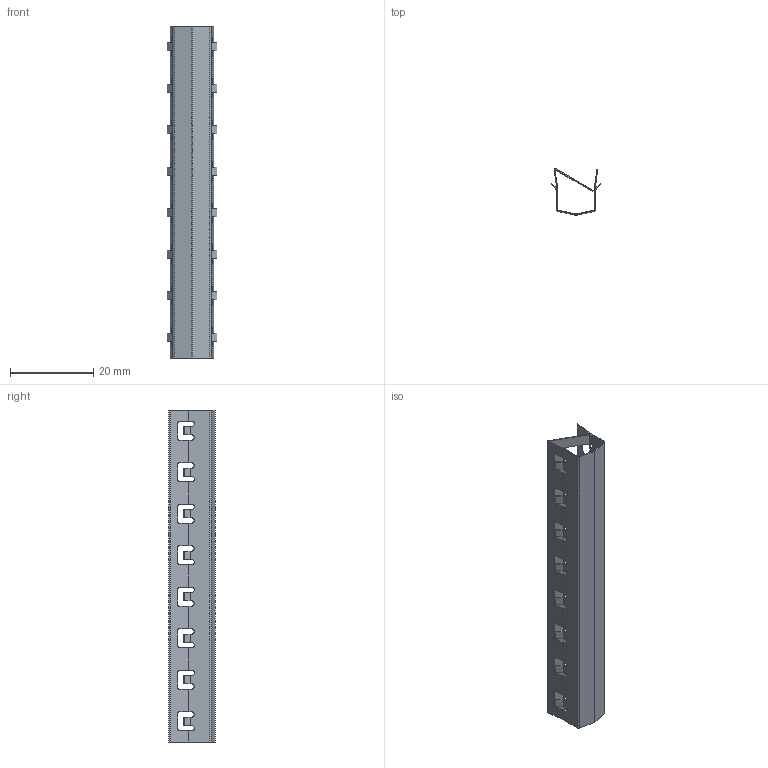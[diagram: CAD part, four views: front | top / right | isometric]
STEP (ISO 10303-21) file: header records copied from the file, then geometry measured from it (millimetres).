
FILE_DESCRIPTION (( 'STEP AP203' ), '1' );
FILE_NAME ('0108KLF.STEP', '2024-09-04T08:25:55', ( 'Windows-Benutzer' ), ( '' ), 'SwSTEP 2.0', 'SolidWorks 2024', '' );
FILE_SCHEMA (( 'CONFIG_CONTROL_DESIGN' ));
Length unit declared in the file: millimetre
Products named in the file (1): 0108KLF
Bounding box: 12 x 11.11 x 80 mm (x, y, z)
Volume: 548.1 mm3; surface area: 5624.6 mm2
Topology: 1 solids, 1 shells, 300 faces, 990 edges, 660 vertices
Faces by surface type: plane 178, cylinder 122
Entity records: 10883 total; most frequent: CARTESIAN_POINT 2239, ORIENTED_EDGE 1980, DIRECTION 1644, EDGE_CURVE 990, LINE 746, VECTOR 746, VERTEX_POINT 660, AXIS2_PLACEMENT_3D 449
